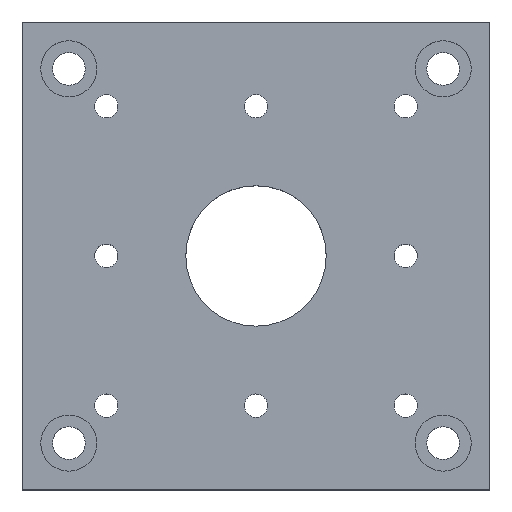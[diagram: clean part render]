
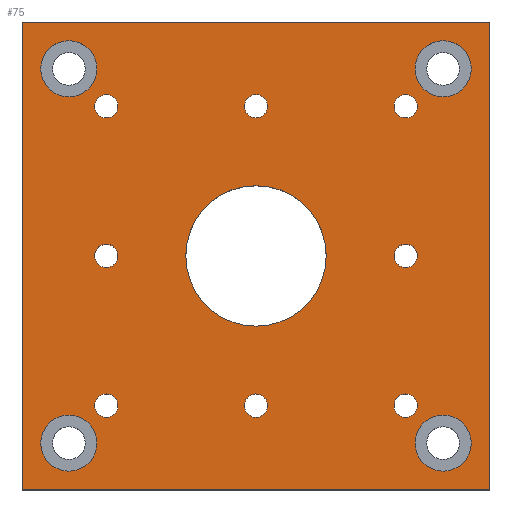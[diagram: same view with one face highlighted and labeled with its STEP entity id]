
A CAD part, top view. The second image highlights one B-rep face of the part: STEP entity #75.
In plain terms, the highlighted planar face has unit normal (0, 0, 1).
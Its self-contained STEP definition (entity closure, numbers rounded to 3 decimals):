
#75 = ADVANCED_FACE( '', ( #103, #104, #105, #106, #107, #108, #109, #110, #111, #112, #113, #114, #115, #116 ), #117, .T. );
#103 = FACE_BOUND( '', #204, .T. );
#104 = FACE_BOUND( '', #205, .T. );
#105 = FACE_BOUND( '', #206, .T. );
#106 = FACE_BOUND( '', #207, .T. );
#107 = FACE_BOUND( '', #208, .T. );
#108 = FACE_BOUND( '', #209, .T. );
#109 = FACE_BOUND( '', #210, .T. );
#110 = FACE_BOUND( '', #211, .T. );
#111 = FACE_BOUND( '', #212, .T. );
#112 = FACE_BOUND( '', #213, .T. );
#113 = FACE_BOUND( '', #214, .T. );
#114 = FACE_BOUND( '', #215, .T. );
#115 = FACE_BOUND( '', #216, .T. );
#116 = FACE_OUTER_BOUND( '', #217, .T. );
#117 = PLANE( '', #218 );
#204 = EDGE_LOOP( '', ( #305 ) );
#205 = EDGE_LOOP( '', ( #306 ) );
#206 = EDGE_LOOP( '', ( #307 ) );
#207 = EDGE_LOOP( '', ( #308 ) );
#208 = EDGE_LOOP( '', ( #309 ) );
#209 = EDGE_LOOP( '', ( #310 ) );
#210 = EDGE_LOOP( '', ( #311 ) );
#211 = EDGE_LOOP( '', ( #312 ) );
#212 = EDGE_LOOP( '', ( #313 ) );
#213 = EDGE_LOOP( '', ( #314 ) );
#214 = EDGE_LOOP( '', ( #315 ) );
#215 = EDGE_LOOP( '', ( #316 ) );
#216 = EDGE_LOOP( '', ( #317 ) );
#217 = EDGE_LOOP( '', ( #318, #319, #320, #321 ) );
#218 = AXIS2_PLACEMENT_3D( '', #322, #323, #324 );
#305 = ORIENTED_EDGE( '', *, *, #478, .T. );
#306 = ORIENTED_EDGE( '', *, *, #479, .T. );
#307 = ORIENTED_EDGE( '', *, *, #480, .T. );
#308 = ORIENTED_EDGE( '', *, *, #481, .T. );
#309 = ORIENTED_EDGE( '', *, *, #482, .T. );
#310 = ORIENTED_EDGE( '', *, *, #483, .T. );
#311 = ORIENTED_EDGE( '', *, *, #484, .T. );
#312 = ORIENTED_EDGE( '', *, *, #485, .T. );
#313 = ORIENTED_EDGE( '', *, *, #486, .T. );
#314 = ORIENTED_EDGE( '', *, *, #487, .T. );
#315 = ORIENTED_EDGE( '', *, *, #488, .T. );
#316 = ORIENTED_EDGE( '', *, *, #489, .T. );
#317 = ORIENTED_EDGE( '', *, *, #490, .T. );
#318 = ORIENTED_EDGE( '', *, *, #491, .F. );
#319 = ORIENTED_EDGE( '', *, *, #492, .F. );
#320 = ORIENTED_EDGE( '', *, *, #493, .F. );
#321 = ORIENTED_EDGE( '', *, *, #494, .F. );
#322 = CARTESIAN_POINT( '', ( 0., 0., 6. ) );
#323 = DIRECTION( '', ( 0., 0., 1. ) );
#324 = DIRECTION( '', ( 1., 0., 0. ) );
#478 = EDGE_CURVE( '', #524, #524, #525, .T. );
#479 = EDGE_CURVE( '', #526, #526, #527, .T. );
#480 = EDGE_CURVE( '', #528, #528, #529, .T. );
#481 = EDGE_CURVE( '', #530, #530, #531, .T. );
#482 = EDGE_CURVE( '', #532, #532, #533, .T. );
#483 = EDGE_CURVE( '', #534, #534, #535, .T. );
#484 = EDGE_CURVE( '', #536, #536, #537, .T. );
#485 = EDGE_CURVE( '', #538, #538, #539, .T. );
#486 = EDGE_CURVE( '', #540, #540, #541, .T. );
#487 = EDGE_CURVE( '', #542, #542, #543, .T. );
#488 = EDGE_CURVE( '', #544, #544, #545, .T. );
#489 = EDGE_CURVE( '', #546, #546, #547, .T. );
#490 = EDGE_CURVE( '', #548, #548, #549, .T. );
#491 = EDGE_CURVE( '', #550, #551, #552, .T. );
#492 = EDGE_CURVE( '', #553, #550, #554, .T. );
#493 = EDGE_CURVE( '', #555, #553, #556, .T. );
#494 = EDGE_CURVE( '', #551, #555, #557, .T. );
#524 = VERTEX_POINT( '', #612 );
#525 = CIRCLE( '', #613, 3. );
#526 = VERTEX_POINT( '', #614 );
#527 = CIRCLE( '', #615, 3. );
#528 = VERTEX_POINT( '', #616 );
#529 = CIRCLE( '', #617, 3. );
#530 = VERTEX_POINT( '', #618 );
#531 = CIRCLE( '', #619, 3. );
#532 = VERTEX_POINT( '', #620 );
#533 = CIRCLE( '', #621, 1.25 );
#534 = VERTEX_POINT( '', #622 );
#535 = CIRCLE( '', #623, 1.25 );
#536 = VERTEX_POINT( '', #624 );
#537 = CIRCLE( '', #625, 1.25 );
#538 = VERTEX_POINT( '', #626 );
#539 = CIRCLE( '', #627, 1.25 );
#540 = VERTEX_POINT( '', #628 );
#541 = CIRCLE( '', #629, 1.25 );
#542 = VERTEX_POINT( '', #630 );
#543 = CIRCLE( '', #631, 1.25 );
#544 = VERTEX_POINT( '', #632 );
#545 = CIRCLE( '', #633, 1.25 );
#546 = VERTEX_POINT( '', #634 );
#547 = CIRCLE( '', #635, 1.25 );
#548 = VERTEX_POINT( '', #636 );
#549 = CIRCLE( '', #637, 7.5 );
#550 = VERTEX_POINT( '', #638 );
#551 = VERTEX_POINT( '', #639 );
#552 = LINE( '', #640, #641 );
#553 = VERTEX_POINT( '', #642 );
#554 = LINE( '', #643, #644 );
#555 = VERTEX_POINT( '', #645 );
#556 = LINE( '', #646, #647 );
#557 = LINE( '', #648, #649 );
#612 = CARTESIAN_POINT( '', ( 23., -20., 6. ) );
#613 = AXIS2_PLACEMENT_3D( '', #712, #713, #714 );
#614 = CARTESIAN_POINT( '', ( -17., -20., 6. ) );
#615 = AXIS2_PLACEMENT_3D( '', #715, #716, #717 );
#616 = CARTESIAN_POINT( '', ( -17., 20., 6. ) );
#617 = AXIS2_PLACEMENT_3D( '', #718, #719, #720 );
#618 = CARTESIAN_POINT( '', ( 23., 20., 6. ) );
#619 = AXIS2_PLACEMENT_3D( '', #721, #722, #723 );
#620 = CARTESIAN_POINT( '', ( -14.75, -16., 6. ) );
#621 = AXIS2_PLACEMENT_3D( '', #724, #725, #726 );
#622 = CARTESIAN_POINT( '', ( 1.25, -16., 6. ) );
#623 = AXIS2_PLACEMENT_3D( '', #727, #728, #729 );
#624 = CARTESIAN_POINT( '', ( 17.25, -16., 6. ) );
#625 = AXIS2_PLACEMENT_3D( '', #730, #731, #732 );
#626 = CARTESIAN_POINT( '', ( 17.25, 0., 6. ) );
#627 = AXIS2_PLACEMENT_3D( '', #733, #734, #735 );
#628 = CARTESIAN_POINT( '', ( -14.75, 0., 6. ) );
#629 = AXIS2_PLACEMENT_3D( '', #736, #737, #738 );
#630 = CARTESIAN_POINT( '', ( -14.75, 16., 6. ) );
#631 = AXIS2_PLACEMENT_3D( '', #739, #740, #741 );
#632 = CARTESIAN_POINT( '', ( 1.25, 16., 6. ) );
#633 = AXIS2_PLACEMENT_3D( '', #742, #743, #744 );
#634 = CARTESIAN_POINT( '', ( 17.25, 16., 6. ) );
#635 = AXIS2_PLACEMENT_3D( '', #745, #746, #747 );
#636 = CARTESIAN_POINT( '', ( 7.5, 0., 6. ) );
#637 = AXIS2_PLACEMENT_3D( '', #748, #749, #750 );
#638 = CARTESIAN_POINT( '', ( 25., -25., 6. ) );
#639 = CARTESIAN_POINT( '', ( -25., -25., 6. ) );
#640 = CARTESIAN_POINT( '', ( 0., -25., 6. ) );
#641 = VECTOR( '', #751, 1000. );
#642 = CARTESIAN_POINT( '', ( 25., 25., 6. ) );
#643 = CARTESIAN_POINT( '', ( 25., 0., 6. ) );
#644 = VECTOR( '', #752, 1000. );
#645 = CARTESIAN_POINT( '', ( -25., 25., 6. ) );
#646 = CARTESIAN_POINT( '', ( 0., 25., 6. ) );
#647 = VECTOR( '', #753, 1000. );
#648 = CARTESIAN_POINT( '', ( -25., 0., 6. ) );
#649 = VECTOR( '', #754, 1000. );
#712 = CARTESIAN_POINT( '', ( 20., -20., 6. ) );
#713 = DIRECTION( '', ( 0., 0., -1. ) );
#714 = DIRECTION( '', ( 1., 0., 0. ) );
#715 = CARTESIAN_POINT( '', ( -20., -20., 6. ) );
#716 = DIRECTION( '', ( 0., 0., -1. ) );
#717 = DIRECTION( '', ( 1., 0., 0. ) );
#718 = CARTESIAN_POINT( '', ( -20., 20., 6. ) );
#719 = DIRECTION( '', ( 0., 0., -1. ) );
#720 = DIRECTION( '', ( 1., 0., 0. ) );
#721 = CARTESIAN_POINT( '', ( 20., 20., 6. ) );
#722 = DIRECTION( '', ( 0., 0., -1. ) );
#723 = DIRECTION( '', ( 1., 0., 0. ) );
#724 = CARTESIAN_POINT( '', ( -16., -16., 6. ) );
#725 = DIRECTION( '', ( 0., 0., -1. ) );
#726 = DIRECTION( '', ( 1., 0., 0. ) );
#727 = CARTESIAN_POINT( '', ( 0., -16., 6. ) );
#728 = DIRECTION( '', ( 0., 0., -1. ) );
#729 = DIRECTION( '', ( 1., 0., 0. ) );
#730 = CARTESIAN_POINT( '', ( 16., -16., 6. ) );
#731 = DIRECTION( '', ( 0., 0., -1. ) );
#732 = DIRECTION( '', ( 1., 0., 0. ) );
#733 = CARTESIAN_POINT( '', ( 16., 0., 6. ) );
#734 = DIRECTION( '', ( 0., 0., -1. ) );
#735 = DIRECTION( '', ( 1., 0., 0. ) );
#736 = CARTESIAN_POINT( '', ( -16., 0., 6. ) );
#737 = DIRECTION( '', ( 0., 0., -1. ) );
#738 = DIRECTION( '', ( 1., 0., 0. ) );
#739 = CARTESIAN_POINT( '', ( -16., 16., 6. ) );
#740 = DIRECTION( '', ( 0., 0., -1. ) );
#741 = DIRECTION( '', ( 1., 0., 0. ) );
#742 = CARTESIAN_POINT( '', ( 0., 16., 6. ) );
#743 = DIRECTION( '', ( 0., 0., -1. ) );
#744 = DIRECTION( '', ( 1., 0., 0. ) );
#745 = CARTESIAN_POINT( '', ( 16., 16., 6. ) );
#746 = DIRECTION( '', ( 0., 0., -1. ) );
#747 = DIRECTION( '', ( 1., 0., 0. ) );
#748 = CARTESIAN_POINT( '', ( 0., 0., 6. ) );
#749 = DIRECTION( '', ( 0., 0., -1. ) );
#750 = DIRECTION( '', ( 1., 0., 0. ) );
#751 = DIRECTION( '', ( -1., 0., 0. ) );
#752 = DIRECTION( '', ( 0., -1., 0. ) );
#753 = DIRECTION( '', ( 1., 0., 0. ) );
#754 = DIRECTION( '', ( 0., 1., 0. ) );
